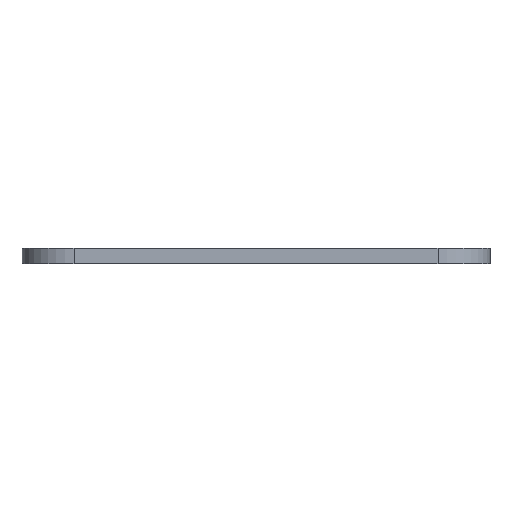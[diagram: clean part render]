
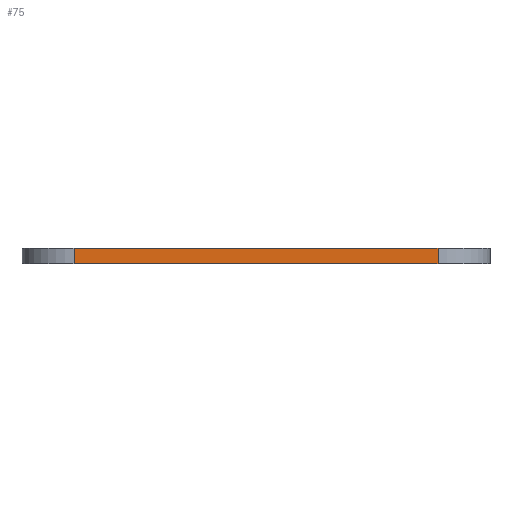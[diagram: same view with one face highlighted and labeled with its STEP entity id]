
A CAD part, left-side view. The second image highlights one B-rep face of the part: STEP entity #75.
In plain terms, the highlighted planar face has unit normal (-1, 0, 0).
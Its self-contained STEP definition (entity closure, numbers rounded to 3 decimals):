
#19 = AXIS2_PLACEMENT_3D ( 'NONE', #292, #565, #559 ) ;
#31 = VECTOR ( 'NONE', #188, 1000. ) ;
#34 = EDGE_CURVE ( 'NONE', #97, #474, #384, .T. ) ;
#38 = EDGE_LOOP ( 'NONE', ( #462, #331, #460, #495 ) ) ;
#39 = DIRECTION ( 'NONE',  ( 0., 0., -1. ) ) ;
#49 = CARTESIAN_POINT ( 'NONE',  ( 0., 0., 0. ) ) ;
#75 = ADVANCED_FACE ( 'NONE', ( #412 ), #403, .F. ) ;
#85 = DIRECTION ( 'NONE',  ( 0., -1., 0. ) ) ;
#97 = VERTEX_POINT ( 'NONE', #235 ) ;
#105 = VECTOR ( 'NONE', #422, 1000. ) ;
#118 = EDGE_CURVE ( 'NONE', #133, #474, #609, .T. ) ;
#133 = VERTEX_POINT ( 'NONE', #672 ) ;
#186 = CARTESIAN_POINT ( 'NONE',  ( 0., 0., 3. ) ) ;
#188 = DIRECTION ( 'NONE',  ( 0., 0., 1. ) ) ;
#189 = CARTESIAN_POINT ( 'NONE',  ( 0., 80., 0. ) ) ;
#195 = CARTESIAN_POINT ( 'NONE',  ( 0., 80., 3. ) ) ;
#235 = CARTESIAN_POINT ( 'NONE',  ( 0., 80., 3. ) ) ;
#262 = VERTEX_POINT ( 'NONE', #189 ) ;
#292 = CARTESIAN_POINT ( 'NONE',  ( 0., 0., 3. ) ) ;
#307 = CARTESIAN_POINT ( 'NONE',  ( 0., 10., 3. ) ) ;
#331 = ORIENTED_EDGE ( 'NONE', *, *, #118, .T. ) ;
#384 = LINE ( 'NONE', #186, #572 ) ;
#403 = PLANE ( 'NONE',  #19 ) ;
#412 = FACE_OUTER_BOUND ( 'NONE', #38, .T. ) ;
#422 = DIRECTION ( 'NONE',  ( 0., -1., 0. ) ) ;
#448 = EDGE_CURVE ( 'NONE', #262, #133, #640, .T. ) ;
#459 = EDGE_CURVE ( 'NONE', #97, #262, #509, .T. ) ;
#460 = ORIENTED_EDGE ( 'NONE', *, *, #34, .F. ) ;
#462 = ORIENTED_EDGE ( 'NONE', *, *, #448, .T. ) ;
#471 = VECTOR ( 'NONE', #39, 1000. ) ;
#474 = VERTEX_POINT ( 'NONE', #307 ) ;
#495 = ORIENTED_EDGE ( 'NONE', *, *, #459, .T. ) ;
#509 = LINE ( 'NONE', #195, #471 ) ;
#559 = DIRECTION ( 'NONE',  ( 0., 0., -1. ) ) ;
#565 = DIRECTION ( 'NONE',  ( 1., 0., 0. ) ) ;
#572 = VECTOR ( 'NONE', #85, 1000. ) ;
#609 = LINE ( 'NONE', #613, #31 ) ;
#613 = CARTESIAN_POINT ( 'NONE',  ( 0., 10., 3. ) ) ;
#640 = LINE ( 'NONE', #49, #105 ) ;
#672 = CARTESIAN_POINT ( 'NONE',  ( 0., 10., 0. ) ) ;
